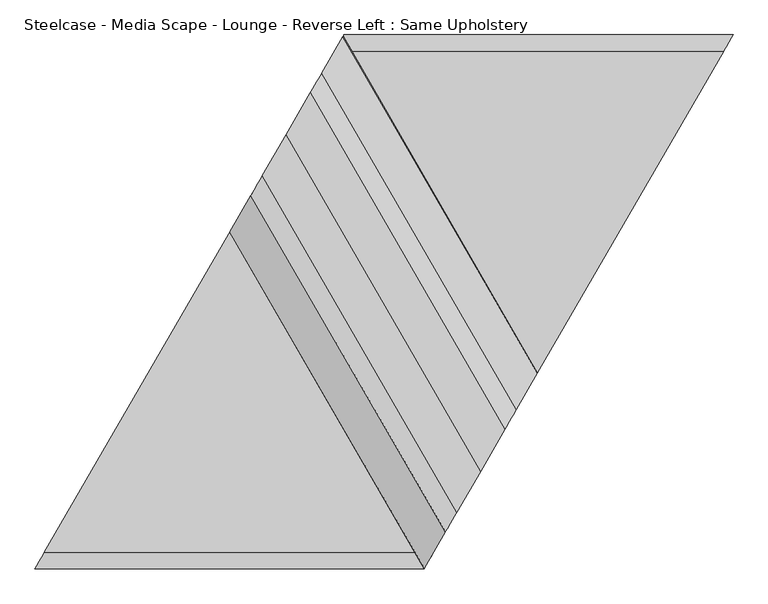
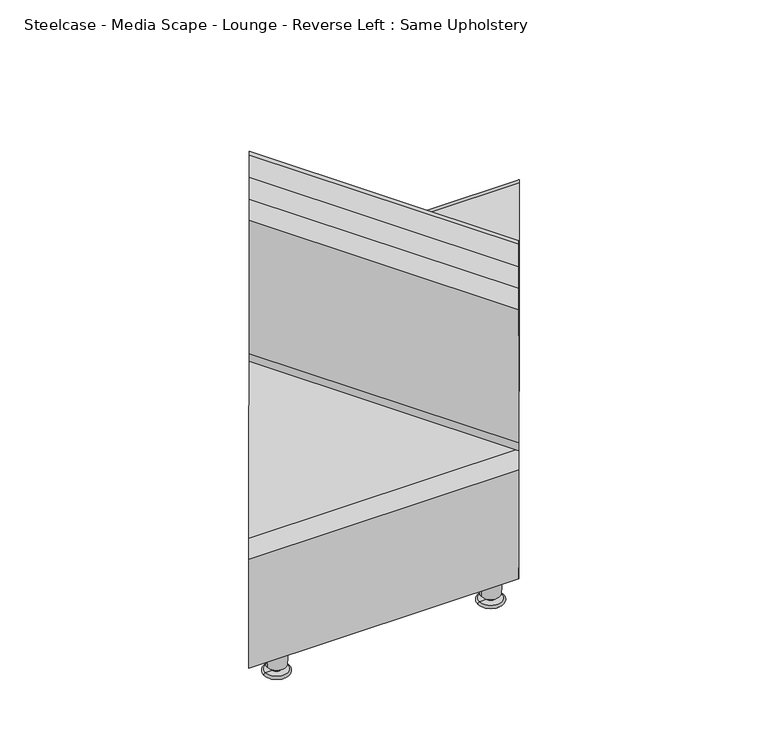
"""IFC4 building model written with IfcOpenShell, lengths in millimetres: furniture geometry, Steelcase - Media Scape - Lounge - Reverse Left : Same Upholstery."""

from ifc_helpers import new_model, si_unit, point, frame, origin, place, context, project, spatial, polyline, circle_curve, ellipse_curve, trimmed, source, transform, mapped, element, save
from ifc_brep_helpers import plane_surface, cylinder_surface, revolved_surface, advanced_brep


def steelcase_media_scape_lounge_reverse_left_same_upholstery_83d11a1b(model_context):
    return source(origin(), model_context, "Body", "AdvancedBrep", [
        advanced_brep(
        [(733.2985607, 218.0147503, 735.33), (429.994771, 743.3523242, 735.33), (392.1305336, 677.8946237, 735.33), (695.4343233, 152.5570499, 735.33), (355.0476193, 613.7876338, 735.33), (658.351409, 88.4500599, 735.33), (337.0848346, 582.734517, 710.0547892), (640.3886243, 57.3969432, 710.0547892), (304.4075131, 526.243684, 438.6065476), (607.7113028, 0.9061101, 438.6065476), (319.5651722, 552.447447, 406.3510633), (622.8689619, 27.1098731, 406.3510633), (392.5844661, 678.6793583, 406.3510633), (695.8882558, 153.3417845, 406.3510633), (465.4772182, 804.6925109, 406.3510633), (768.7810079, 279.3549371, 406.3510633), (480.6348772, 830.896274, 438.6065476), (783.9386669, 305.5587001, 438.6065476), (447.9575558, 774.4054409, 710.0547892), (751.2613455, 249.067867, 710.0547892)],
        [
            (0, 1),
            (1, 2),
            (2, 3),
            (3, 0),
            (2, 4),
            (4, 5),
            (5, 3),
            (4, 6, ellipse_curve(frame((355.0476193, 613.7876338, 703.58), z_axis=(0.8656115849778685, -0.5007160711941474, 0.0), x_axis=(-0.5007160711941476, -0.8656115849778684, 0.0)), 36.6442572, 31.75)),
            (6, 7),
            (7, 5, ellipse_curve(frame((658.351409, 88.4500599, 703.58), z_axis=(-0.8656115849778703, 0.5007160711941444, 0.0), x_axis=(-0.5007160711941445, -0.86561158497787, 0.0)), 36.6442572, 31.75)),
            (6, 8),
            (8, 9),
            (9, 7),
            (8, 10, ellipse_curve(frame((319.5651722, 552.447447, 433.1428821), z_axis=(0.8656115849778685, -0.5007160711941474, 0.0), x_axis=(-0.5007160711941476, -0.8656115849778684, 0.0)), 30.9217732, 26.7918188)),
            (10, 11),
            (11, 9, ellipse_curve(frame((622.8689619, 27.1098731, 433.1428821), z_axis=(-0.8656115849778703, 0.5007160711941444, 0.0), x_axis=(-0.5007160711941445, -0.86561158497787, 0.0)), 30.9217732, 26.7918188)),
            (10, 12),
            (12, 13),
            (13, 11),
            (12, 14),
            (14, 15),
            (15, 13),
            (14, 16, ellipse_curve(frame((465.4772182, 804.6925109, 433.1428821), z_axis=(0.8656115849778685, -0.5007160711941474, 0.0), x_axis=(-0.5007160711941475, -0.8656115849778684, 0.0)), 30.9217732, 26.7918188)),
            (16, 17),
            (17, 15, ellipse_curve(frame((768.7810079, 279.3549371, 433.1428821), z_axis=(-0.8656115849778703, 0.5007160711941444, 0.0), x_axis=(-0.5007160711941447, -0.86561158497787, 0.0)), 30.9217732, 26.7918188)),
            (16, 18),
            (18, 19),
            (19, 17),
            (0, 19, ellipse_curve(frame((733.2985607, 218.0147503, 703.58), z_axis=(-0.8656115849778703, 0.5007160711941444, 0.0), x_axis=(-0.5007160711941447, -0.86561158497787, 0.0)), 36.6442572, 31.75)),
            (18, 1, ellipse_curve(frame((429.994771, 743.3523242, 703.58), z_axis=(0.8656115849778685, -0.5007160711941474, 0.0), x_axis=(-0.5007160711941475, -0.8656115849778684, 0.0)), 36.6442572, 31.75)),
        ],
        [
            plane_surface(frame((796.5544513, 108.452334, 735.33), z_axis=(0.0, 0.0, 1.0), x_axis=(-0.49999999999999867, 0.8660254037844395, 0.0))),
            plane_surface(frame((739.8122575, 75.6922131, 735.33), z_axis=(0.0, 0.0, 1.0), x_axis=(-0.49999999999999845, 0.8660254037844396, 0.0))),
            cylinder_surface(frame((291.2090631, 724.3592567, 703.58), z_axis=(0.49999999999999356, -0.8660254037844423, 0.0), x_axis=(-0.8660254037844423, -0.49999999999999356, 0.0)), 31.75),
            plane_surface(frame((657.3224483, 28.0666996, 710.0547892), z_axis=(-0.8478262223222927, -0.4894926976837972, 0.2039303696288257), x_axis=(-0.49999999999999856, 0.8660254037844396, 0.0))),
            cylinder_surface(frame((238.0361477, 693.6598597, 433.1428821), z_axis=(0.49999999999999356, -0.8660254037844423, 0.0), x_axis=(-0.8660254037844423, -0.49999999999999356, 0.0)), 26.7918188),
            plane_surface(frame((631.0680155, 12.9086957, 406.3510633), z_axis=(0.0, 0.0, -1.0000000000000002), x_axis=(-0.4999999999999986, 0.8660254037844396, 0.0))),
            plane_surface(frame((740.4925069, 76.0849553, 406.3510633), z_axis=(0.0, 0.0, -1.0), x_axis=(-0.49999999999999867, 0.8660254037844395, 0.0))),
            cylinder_surface(frame((456.6954989, 819.902895, 433.1428821), z_axis=(0.49999999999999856, -0.8660254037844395, 0.0), x_axis=(0.8660254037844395, 0.49999999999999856, 0.0)), 26.7918188),
            plane_surface(frame((872.4421732, 152.2661306, 438.6065476), z_axis=(0.8478262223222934, 0.489492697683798, 0.20393036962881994), x_axis=(-0.4999999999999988, 0.8660254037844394, 0.0))),
            cylinder_surface(frame((403.5225835, 789.203498, 703.58), z_axis=(0.49999999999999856, -0.8660254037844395, 0.0), x_axis=(0.8660254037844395, 0.49999999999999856, 0.0)), 31.75),
            plane_surface(frame((1244.6, 1101.9257624, 750.6521515), z_axis=(0.8656115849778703, -0.5007160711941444, 0.0), x_axis=(0.0, 0.0, -1.0))),
            plane_surface(frame((-113.1046529, -195.5293698, 750.6521515), z_axis=(-0.8656115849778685, 0.5007160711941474, 0.0), x_axis=(0.0, 0.0, -1.0))),
        ],
        [
            (0, [[1, 2, 3, 4]]),
            (1, [[-3, 5, 6, 7]]),
            (2, [[-6, 8, 9, 10]]),
            (3, [[-9, 11, 12, 13]]),
            (4, [[-12, 14, 15, 16]]),
            (5, [[-15, 17, 18, 19]]),
            (6, [[-18, 20, 21, 22]]),
            (7, [[-21, 23, 24, 25]]),
            (8, [[-24, 26, 27, 28]]),
            (9, [[-1, 29, -27, 30]]),
            (10, [[-4, -7, -10, -13, -16, -19, -22, -25, -28, -29]]),
            (11, [[-2, -30, -26, -23, -20, -17, -14, -11, -8, -5]]),
        ],
    ),
        advanced_brep(
        [(1059.8466558, 782.5339068, 74.676), (452.6594956, 782.5339068, 74.676), (482.1409984, 833.4999769, 374.7917281), (1089.3281586, 833.4999769, 374.7917281), (467.6556677, 808.4584998, 404.4443065), (1074.842828, 808.4584998, 404.4443065), (14.7196556, 25.4465658, 404.4443065), (621.9068159, 25.4465658, 404.4443065), (0.234325, 0.4050887, 374.7917281), (607.4214852, 0.4050887, 374.7917281), (29.7158278, 51.3711588, 74.676), (636.9029881, 51.3711588, 74.676), (243.0239183, 420.1269566, 74.676), (850.2110786, 420.1269566, 74.676)],
        [
            (0, 1),
            (1, 2),
            (2, 3),
            (3, 0),
            (2, 4, ellipse_curve(frame((467.6556677, 808.4584998, 379.0443065), z_axis=(0.8656115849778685, -0.5007160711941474, 0.0), x_axis=(0.5007160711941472, 0.8656115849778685, 0.0)), 29.343415, 25.4)),
            (4, 5),
            (5, 3, ellipse_curve(frame((1074.842828, 808.4584998, 379.0443065), z_axis=(-0.8656115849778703, 0.5007160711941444, 0.0), x_axis=(0.500716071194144, 0.8656115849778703, 0.0)), 29.343415, 25.4)),
            (4, 6),
            (6, 7),
            (7, 5),
            (6, 8, ellipse_curve(frame((14.7196556, 25.4465658, 379.0443065), z_axis=(0.8656115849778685, -0.5007160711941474, 0.0), x_axis=(0.5007160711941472, 0.8656115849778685, 0.0)), 29.343415, 25.4)),
            (8, 9),
            (9, 7, ellipse_curve(frame((621.9068159, 25.4465658, 379.0443065), z_axis=(-0.8656115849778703, 0.5007160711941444, 0.0), x_axis=(0.500716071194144, 0.8656115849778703, 0.0)), 29.343415, 25.4)),
            (8, 10),
            (10, 11),
            (11, 9),
            (10, 12),
            (12, 13),
            (13, 11),
            (0, 13),
            (12, 1),
        ],
        [
            plane_surface(frame((1094.6230669, 782.5339068, 74.676), z_axis=(0.0, 0.9858849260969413, -0.16742434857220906), x_axis=(-1.0, 0.0, 0.0))),
            cylinder_surface(frame((0.0, 808.4584998, 379.0443065), z_axis=(1.0, 0.0, 0.0), x_axis=(0.0, 1.0, 0.0)), 25.4),
            plane_surface(frame((1094.6230669, 808.4584998, 404.4443065), z_axis=(0.0, 0.0, 1.0), x_axis=(-1.0, 0.0, 0.0))),
            cylinder_surface(frame((0.0, 25.4465658, 379.0443065), z_axis=(1.0, 0.0, 0.0), x_axis=(0.0, -1.0, 0.0)), 25.4),
            plane_surface(frame((1094.6230669, 0.4050887, 374.7917281), z_axis=(0.0, -0.9858849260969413, -0.1674243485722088), x_axis=(-1.0, 0.0, 0.0))),
            plane_surface(frame((1094.6230669, 51.3711588, 74.676), z_axis=(0.0, 0.0, -1.0), x_axis=(-1.0, 0.0, 0.0))),
            plane_surface(frame((1094.6230669, 420.1269566, 74.676), z_axis=(0.0, 0.0, -1.0), x_axis=(-1.0, 0.0, 0.0))),
            plane_surface(frame((1244.6, 1101.9257624, 750.6521515), z_axis=(0.8656115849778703, -0.5007160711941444, 0.0), x_axis=(0.0, 0.0, -1.0))),
            plane_surface(frame((-113.1046529, -195.5293698, 750.6521515), z_axis=(-0.8656115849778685, 0.5007160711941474, 0.0), x_axis=(0.0, 0.0, -1.0))),
        ],
        [
            (0, [[1, 2, 3, 4]]),
            (1, [[-3, 5, 6, 7]]),
            (2, [[-6, 8, 9, 10]]),
            (3, [[-9, 11, 12, 13]]),
            (4, [[-12, 14, 15, 16]]),
            (5, [[-15, 17, 18, 19]]),
            (6, [[-1, 20, -18, 21]]),
            (7, [[-4, -7, -10, -13, -16, -19, -20]]),
            (8, [[-2, -21, -17, -14, -11, -8, -5]]),
        ],
    ),
        advanced_brep(
        [(964.0013944, 727.1583042, 74.1561731), (987.7883146, 727.1583042, 74.1561731), (940.2144743, 727.1583042, 74.1561731), (937.9477522, 727.1583042, 0.0), (990.0550367, 727.1583042, 0.0), (964.0013944, 727.1583042, 0.0), (937.9477522, 727.1583042, 6.3788302), (990.0550367, 727.1583042, 6.3788302), (954.4763944, 727.1583042, 6.3788302), (973.5263944, 727.1583042, 6.3788302), (954.4763944, 727.1583042, 17.057519), (973.5263944, 727.1583042, 17.057519), (943.0462782, 727.1583042, 17.057519), (984.9565107, 727.1583042, 17.057519)],
        [
            (0, 1),
            (1, 2, circle_curve(frame((964.0013944, 727.1583042, 74.1561731), z_axis=(0.0, 0.0, 1.0), x_axis=(1.0, 0.0, 0.0)), 23.7869202)),
            (2, 0),
            (2, 1, circle_curve(frame((964.0013944, 727.1583042, 74.1561731), z_axis=(0.0, 0.0, 1.0), x_axis=(1.0, 0.0, 0.0)), 23.7869202)),
            (3, 4, circle_curve(frame((964.0013944, 727.1583042, 0.0), z_axis=(0.0, 0.0, -1.0), x_axis=(1.0, 0.0, 0.0)), 26.0536423)),
            (4, 5),
            (5, 3),
            (4, 3, circle_curve(frame((964.0013944, 727.1583042, 0.0), z_axis=(0.0, 0.0, -1.0), x_axis=(1.0, 0.0, 0.0)), 26.0536423)),
            (3, 6, circle_curve(frame((937.9477522, 727.1583042, 3.1894151), z_axis=(0.0, 1.0, 0.0), x_axis=(-1.0, 0.0, 0.0)), 3.1894151)),
            (6, 7, circle_curve(frame((964.0013944, 727.1583042, 6.3788302), z_axis=(0.0, 0.0, -1.0), x_axis=(1.0, 0.0, 0.0)), 26.0536423)),
            (7, 4, circle_curve(frame((990.0550367, 727.1583042, 3.1894151), z_axis=(0.0, 1.0, 0.0), x_axis=(1.0, 0.0, 0.0)), 3.1894151)),
            (7, 6, circle_curve(frame((964.0013944, 727.1583042, 6.3788302), z_axis=(0.0, 0.0, -1.0), x_axis=(1.0, 0.0, 0.0)), 26.0536423)),
            (6, 8),
            (8, 9, circle_curve(frame((964.0013944, 727.1583042, 6.3788302), z_axis=(0.0, 0.0, -1.0), x_axis=(1.0, 0.0, 0.0)), 9.525)),
            (9, 7),
            (9, 8, circle_curve(frame((964.0013944, 727.1583042, 6.3788302), z_axis=(0.0, 0.0, -1.0), x_axis=(1.0, 0.0, 0.0)), 9.525)),
            (8, 10),
            (10, 11, circle_curve(frame((964.0013944, 727.1583042, 17.057519), z_axis=(0.0, 0.0, -1.0), x_axis=(1.0, 0.0, 0.0)), 9.525)),
            (11, 9),
            (11, 10, circle_curve(frame((964.0013944, 727.1583042, 17.057519), z_axis=(0.0, 0.0, -1.0), x_axis=(1.0, 0.0, 0.0)), 9.525)),
            (10, 12),
            (12, 13, circle_curve(frame((964.0013944, 727.1583042, 17.057519), z_axis=(0.0, 0.0, -1.0), x_axis=(1.0, 0.0, 0.0)), 20.9551163)),
            (13, 11),
            (13, 12, circle_curve(frame((964.0013944, 727.1583042, 17.057519), z_axis=(0.0, 0.0, -1.0), x_axis=(1.0, 0.0, 0.0)), 20.9551163)),
            (1, 13),
            (12, 2),
        ],
        [
            plane_surface(frame((964.0013944, 727.1583042, 74.1561731), z_axis=(0.0, 0.0, 1.0), x_axis=(1.0, 0.0, 0.0))),
            plane_surface(frame((964.0013944, 727.1583042, 0.0), z_axis=(0.0, 0.0, -1.0), x_axis=(1.0, 0.0, 0.0))),
            revolved_surface(trimmed(ellipse_curve(frame((990.0550367, 727.1583042, 3.1894151), z_axis=(0.0, -1.0, 0.0), x_axis=(1.0, 0.0, 0.0)), 3.1894151, 3.1894151), [point((990.0550367, 727.1583042, 0.0))], [point((990.0550367, 727.1583042, 6.3788302))], True, "CARTESIAN"), (964.0013944, 727.1583042, 61.4561731), (0.0, 0.0, 1.0)),
            plane_surface(frame((964.0013944, 727.1583042, 6.3788302), z_axis=(0.0, 0.0, 1.0), x_axis=(1.0, 0.0, 0.0))),
            cylinder_surface(frame((964.0013944, 727.1583042, 61.4561731), z_axis=(0.0, 0.0, 1.0), x_axis=(1.0, 0.0, 0.0)), 9.525),
            plane_surface(frame((964.0013944, 727.1583042, 17.057519), z_axis=(0.0, 0.0, -1.0), x_axis=(1.0, 0.0, 0.0))),
            revolved_surface(polyline([(984.9565107, 727.1583042, 17.057519), (987.7883146, 727.1583042, 74.1561731)]), (964.0013944, 727.1583042, 61.4561731), (0.0, 0.0, 1.0)),
        ],
        [
            (0, [[1, 2, 3]]),
            (0, [[-1, -3, 4]]),
            (1, [[5, 6, 7]]),
            (1, [[-6, 8, -7]]),
            (2, [[-5, 9, 10, 11]]),
            (2, [[-8, -11, 12, -9]]),
            (3, [[-10, 13, 14, 15]]),
            (3, [[-12, -15, 16, -13]]),
            (4, [[-14, 17, 18, 19]]),
            (4, [[-16, -19, 20, -17]]),
            (5, [[-18, 21, 22, 23]]),
            (5, [[-20, -23, 24, -21]]),
            (6, [[-2, 25, -22, 26]]),
            (6, [[-4, -26, -24, -25]]),
        ],
    ),
        advanced_brep(
        [(482.2011518, 727.1583042, 74.1561731), (505.988072, 727.1583042, 74.1561731), (458.4142317, 727.1583042, 74.1561731), (456.1475095, 727.1583042, 0.0), (508.2547941, 727.1583042, 0.0), (482.2011518, 727.1583042, 0.0), (456.1475095, 727.1583042, 6.3788302), (508.2547941, 727.1583042, 6.3788302), (472.6761518, 727.1583042, 6.3788302), (491.7261518, 727.1583042, 6.3788302), (472.6761518, 727.1583042, 17.057519), (491.7261518, 727.1583042, 17.057519), (461.2460355, 727.1583042, 17.057519), (503.1562681, 727.1583042, 17.057519)],
        [
            (0, 1),
            (1, 2, circle_curve(frame((482.2011518, 727.1583042, 74.1561731), z_axis=(0.0, 0.0, 1.0), x_axis=(1.0, 0.0, 0.0)), 23.7869202)),
            (2, 0),
            (2, 1, circle_curve(frame((482.2011518, 727.1583042, 74.1561731), z_axis=(0.0, 0.0, 1.0), x_axis=(1.0, 0.0, 0.0)), 23.7869202)),
            (3, 4, circle_curve(frame((482.2011518, 727.1583042, 0.0), z_axis=(0.0, 0.0, -1.0), x_axis=(1.0, 0.0, 0.0)), 26.0536423)),
            (4, 5),
            (5, 3),
            (4, 3, circle_curve(frame((482.2011518, 727.1583042, 0.0), z_axis=(0.0, 0.0, -1.0), x_axis=(1.0, 0.0, 0.0)), 26.0536423)),
            (3, 6, circle_curve(frame((456.1475095, 727.1583042, 3.1894151), z_axis=(0.0, 1.0, 0.0), x_axis=(-1.0, 0.0, 0.0)), 3.1894151)),
            (6, 7, circle_curve(frame((482.2011518, 727.1583042, 6.3788302), z_axis=(0.0, 0.0, -1.0), x_axis=(1.0, 0.0, 0.0)), 26.0536423)),
            (7, 4, circle_curve(frame((508.2547941, 727.1583042, 3.1894151), z_axis=(0.0, 1.0, 0.0), x_axis=(1.0, 0.0, 0.0)), 3.1894151)),
            (7, 6, circle_curve(frame((482.2011518, 727.1583042, 6.3788302), z_axis=(0.0, 0.0, -1.0), x_axis=(1.0, 0.0, 0.0)), 26.0536423)),
            (6, 8),
            (8, 9, circle_curve(frame((482.2011518, 727.1583042, 6.3788302), z_axis=(0.0, 0.0, -1.0), x_axis=(1.0, 0.0, 0.0)), 9.525)),
            (9, 7),
            (9, 8, circle_curve(frame((482.2011518, 727.1583042, 6.3788302), z_axis=(0.0, 0.0, -1.0), x_axis=(1.0, 0.0, 0.0)), 9.525)),
            (8, 10),
            (10, 11, circle_curve(frame((482.2011518, 727.1583042, 17.057519), z_axis=(0.0, 0.0, -1.0), x_axis=(1.0, 0.0, 0.0)), 9.525)),
            (11, 9),
            (11, 10, circle_curve(frame((482.2011518, 727.1583042, 17.057519), z_axis=(0.0, 0.0, -1.0), x_axis=(1.0, 0.0, 0.0)), 9.525)),
            (10, 12),
            (12, 13, circle_curve(frame((482.2011518, 727.1583042, 17.057519), z_axis=(0.0, 0.0, -1.0), x_axis=(1.0, 0.0, 0.0)), 20.9551163)),
            (13, 11),
            (13, 12, circle_curve(frame((482.2011518, 727.1583042, 17.057519), z_axis=(0.0, 0.0, -1.0), x_axis=(1.0, 0.0, 0.0)), 20.9551163)),
            (1, 13),
            (12, 2),
        ],
        [
            plane_surface(frame((482.2011518, 727.1583042, 74.1561731), z_axis=(0.0, 0.0, 1.0), x_axis=(1.0, 0.0, 0.0))),
            plane_surface(frame((482.2011518, 727.1583042, 0.0), z_axis=(0.0, 0.0, -1.0), x_axis=(1.0, 0.0, 0.0))),
            revolved_surface(trimmed(ellipse_curve(frame((508.2547941, 727.1583042, 3.1894151), z_axis=(0.0, -1.0, 0.0), x_axis=(1.0, 0.0, 0.0)), 3.1894151, 3.1894151), [point((508.2547941, 727.1583042, 0.0))], [point((508.2547941, 727.1583042, 6.3788302))], True, "CARTESIAN"), (482.2011518, 727.1583042, 61.4561731), (0.0, 0.0, 1.0)),
            plane_surface(frame((482.2011518, 727.1583042, 6.3788302), z_axis=(0.0, 0.0, 1.0), x_axis=(1.0, 0.0, 0.0))),
            cylinder_surface(frame((482.2011518, 727.1583042, 61.4561731), z_axis=(0.0, 0.0, 1.0), x_axis=(1.0, 0.0, 0.0)), 9.525),
            plane_surface(frame((482.2011518, 727.1583042, 17.057519), z_axis=(0.0, 0.0, -1.0), x_axis=(1.0, 0.0, 0.0))),
            revolved_surface(polyline([(503.1562681, 727.1583042, 17.057519), (505.988072, 727.1583042, 74.1561731)]), (482.2011518, 727.1583042, 61.4561731), (0.0, 0.0, 1.0)),
        ],
        [
            (0, [[1, 2, 3]]),
            (0, [[-1, -3, 4]]),
            (1, [[5, 6, 7]]),
            (1, [[-6, 8, -7]]),
            (2, [[-5, 9, 10, 11]]),
            (2, [[-8, -11, 12, -9]]),
            (3, [[-10, 13, 14, 15]]),
            (3, [[-12, -15, 16, -13]]),
            (4, [[-14, 17, 18, 19]]),
            (4, [[-16, -19, 20, -17]]),
            (5, [[-18, 21, 22, 23]]),
            (5, [[-20, -23, 24, -21]]),
            (6, [[-2, 25, -22, 26]]),
            (6, [[-4, -26, -24, -25]]),
        ],
    ),
        advanced_brep(
        [(605.7651212, 106.9669449, 74.1561731), (629.5520414, 106.9669449, 74.1561731), (581.9782011, 106.9669449, 74.1561731), (579.711479, 106.9669449, 0.0), (631.8187635, 106.9669449, 0.0), (605.7651212, 106.9669449, 0.0), (579.711479, 106.9669449, 6.3788302), (631.8187635, 106.9669449, 6.3788302), (596.2401212, 106.9669449, 6.3788302), (615.2901212, 106.9669449, 6.3788302), (596.2401212, 106.9669449, 17.057519), (615.2901212, 106.9669449, 17.057519), (584.810005, 106.9669449, 17.057519), (626.7202375, 106.9669449, 17.057519)],
        [
            (0, 1),
            (1, 2, circle_curve(frame((605.7651212, 106.9669449, 74.1561731), z_axis=(0.0, 0.0, 1.0), x_axis=(1.0, 0.0, 0.0)), 23.7869202)),
            (2, 0),
            (2, 1, circle_curve(frame((605.7651212, 106.9669449, 74.1561731), z_axis=(0.0, 0.0, 1.0), x_axis=(1.0, 0.0, 0.0)), 23.7869202)),
            (3, 4, circle_curve(frame((605.7651212, 106.9669449, 0.0), z_axis=(0.0, 0.0, -1.0), x_axis=(1.0, 0.0, 0.0)), 26.0536423)),
            (4, 5),
            (5, 3),
            (4, 3, circle_curve(frame((605.7651212, 106.9669449, 0.0), z_axis=(0.0, 0.0, -1.0), x_axis=(1.0, 0.0, 0.0)), 26.0536423)),
            (3, 6, circle_curve(frame((579.711479, 106.9669449, 3.1894151), z_axis=(0.0, 1.0, 0.0), x_axis=(-1.0, 0.0, 0.0)), 3.1894151)),
            (6, 7, circle_curve(frame((605.7651212, 106.9669449, 6.3788302), z_axis=(0.0, 0.0, -1.0), x_axis=(1.0, 0.0, 0.0)), 26.0536423)),
            (7, 4, circle_curve(frame((631.8187635, 106.9669449, 3.1894151), z_axis=(0.0, 1.0, 0.0), x_axis=(1.0, 0.0, 0.0)), 3.1894151)),
            (7, 6, circle_curve(frame((605.7651212, 106.9669449, 6.3788302), z_axis=(0.0, 0.0, -1.0), x_axis=(1.0, 0.0, 0.0)), 26.0536423)),
            (6, 8),
            (8, 9, circle_curve(frame((605.7651212, 106.9669449, 6.3788302), z_axis=(0.0, 0.0, -1.0), x_axis=(1.0, 0.0, 0.0)), 9.525)),
            (9, 7),
            (9, 8, circle_curve(frame((605.7651212, 106.9669449, 6.3788302), z_axis=(0.0, 0.0, -1.0), x_axis=(1.0, 0.0, 0.0)), 9.525)),
            (8, 10),
            (10, 11, circle_curve(frame((605.7651212, 106.9669449, 17.057519), z_axis=(0.0, 0.0, -1.0), x_axis=(1.0, 0.0, 0.0)), 9.525)),
            (11, 9),
            (11, 10, circle_curve(frame((605.7651212, 106.9669449, 17.057519), z_axis=(0.0, 0.0, -1.0), x_axis=(1.0, 0.0, 0.0)), 9.525)),
            (10, 12),
            (12, 13, circle_curve(frame((605.7651212, 106.9669449, 17.057519), z_axis=(0.0, 0.0, -1.0), x_axis=(1.0, 0.0, 0.0)), 20.9551163)),
            (13, 11),
            (13, 12, circle_curve(frame((605.7651212, 106.9669449, 17.057519), z_axis=(0.0, 0.0, -1.0), x_axis=(1.0, 0.0, 0.0)), 20.9551163)),
            (1, 13),
            (12, 2),
        ],
        [
            plane_surface(frame((605.7651212, 106.9669449, 74.1561731), z_axis=(0.0, 0.0, 1.0), x_axis=(1.0, 0.0, 0.0))),
            plane_surface(frame((605.7651212, 106.9669449, 0.0), z_axis=(0.0, 0.0, -1.0), x_axis=(1.0, 0.0, 0.0))),
            revolved_surface(trimmed(ellipse_curve(frame((631.8187635, 106.9669449, 3.1894151), z_axis=(0.0, -1.0, 0.0), x_axis=(1.0, 0.0, 0.0)), 3.1894151, 3.1894151), [point((631.8187635, 106.9669449, 0.0))], [point((631.8187635, 106.9669449, 6.3788302))], True, "CARTESIAN"), (605.7651212, 106.9669449, 61.4561731), (0.0, 0.0, 1.0)),
            plane_surface(frame((605.7651212, 106.9669449, 6.3788302), z_axis=(0.0, 0.0, 1.0), x_axis=(1.0, 0.0, 0.0))),
            cylinder_surface(frame((605.7651212, 106.9669449, 61.4561731), z_axis=(0.0, 0.0, 1.0), x_axis=(1.0, 0.0, 0.0)), 9.525),
            plane_surface(frame((605.7651212, 106.9669449, 17.057519), z_axis=(0.0, 0.0, -1.0), x_axis=(1.0, 0.0, 0.0))),
            revolved_surface(polyline([(626.7202375, 106.9669449, 17.057519), (629.5520414, 106.9669449, 74.1561731)]), (605.7651212, 106.9669449, 61.4561731), (0.0, 0.0, 1.0)),
        ],
        [
            (0, [[1, 2, 3]]),
            (0, [[-1, -3, 4]]),
            (1, [[5, 6, 7]]),
            (1, [[-6, 8, -7]]),
            (2, [[-5, 9, 10, 11]]),
            (2, [[-8, -11, 12, -9]]),
            (3, [[-10, 13, 14, 15]]),
            (3, [[-12, -15, 16, -13]]),
            (4, [[-14, 17, 18, 19]]),
            (4, [[-16, -19, 20, -17]]),
            (5, [[-18, 21, 22, 23]]),
            (5, [[-20, -23, 24, -21]]),
            (6, [[-2, 25, -22, 26]]),
            (6, [[-4, -26, -24, -25]]),
        ],
    ),
        advanced_brep(
        [(123.9648786, 106.9669449, 74.1561731), (147.7517988, 106.9669449, 74.1561731), (100.1779585, 106.9669449, 74.1561731), (97.9112364, 106.9669449, 0.0), (150.0185209, 106.9669449, 0.0), (123.9648786, 106.9669449, 0.0), (97.9112364, 106.9669449, 6.3788302), (150.0185209, 106.9669449, 6.3788302), (114.4398786, 106.9669449, 6.3788302), (133.4898786, 106.9669449, 6.3788302), (114.4398786, 106.9669449, 17.057519), (133.4898786, 106.9669449, 17.057519), (103.0097624, 106.9669449, 17.057519), (144.9199949, 106.9669449, 17.057519)],
        [
            (0, 1),
            (1, 2, circle_curve(frame((123.9648786, 106.9669449, 74.1561731), z_axis=(0.0, 0.0, 1.0), x_axis=(1.0, 0.0, 0.0)), 23.7869202)),
            (2, 0),
            (2, 1, circle_curve(frame((123.9648786, 106.9669449, 74.1561731), z_axis=(0.0, 0.0, 1.0), x_axis=(1.0, 0.0, 0.0)), 23.7869202)),
            (3, 4, circle_curve(frame((123.9648786, 106.9669449, 0.0), z_axis=(0.0, 0.0, -1.0), x_axis=(1.0, 0.0, 0.0)), 26.0536423)),
            (4, 5),
            (5, 3),
            (4, 3, circle_curve(frame((123.9648786, 106.9669449, 0.0), z_axis=(0.0, 0.0, -1.0), x_axis=(1.0, 0.0, 0.0)), 26.0536423)),
            (3, 6, circle_curve(frame((97.9112364, 106.9669449, 3.1894151), z_axis=(0.0, 1.0, 0.0), x_axis=(-1.0, 0.0, 0.0)), 3.1894151)),
            (6, 7, circle_curve(frame((123.9648786, 106.9669449, 6.3788302), z_axis=(0.0, 0.0, -1.0), x_axis=(1.0, 0.0, 0.0)), 26.0536423)),
            (7, 4, circle_curve(frame((150.0185209, 106.9669449, 3.1894151), z_axis=(0.0, 1.0, 0.0), x_axis=(1.0, 0.0, 0.0)), 3.1894151)),
            (7, 6, circle_curve(frame((123.9648786, 106.9669449, 6.3788302), z_axis=(0.0, 0.0, -1.0), x_axis=(1.0, 0.0, 0.0)), 26.0536423)),
            (6, 8),
            (8, 9, circle_curve(frame((123.9648786, 106.9669449, 6.3788302), z_axis=(0.0, 0.0, -1.0), x_axis=(1.0, 0.0, 0.0)), 9.525)),
            (9, 7),
            (9, 8, circle_curve(frame((123.9648786, 106.9669449, 6.3788302), z_axis=(0.0, 0.0, -1.0), x_axis=(1.0, 0.0, 0.0)), 9.525)),
            (8, 10),
            (10, 11, circle_curve(frame((123.9648786, 106.9669449, 17.057519), z_axis=(0.0, 0.0, -1.0), x_axis=(1.0, 0.0, 0.0)), 9.525)),
            (11, 9),
            (11, 10, circle_curve(frame((123.9648786, 106.9669449, 17.057519), z_axis=(0.0, 0.0, -1.0), x_axis=(1.0, 0.0, 0.0)), 9.525)),
            (10, 12),
            (12, 13, circle_curve(frame((123.9648786, 106.9669449, 17.057519), z_axis=(0.0, 0.0, -1.0), x_axis=(1.0, 0.0, 0.0)), 20.9551163)),
            (13, 11),
            (13, 12, circle_curve(frame((123.9648786, 106.9669449, 17.057519), z_axis=(0.0, 0.0, -1.0), x_axis=(1.0, 0.0, 0.0)), 20.9551163)),
            (1, 13),
            (12, 2),
        ],
        [
            plane_surface(frame((123.9648786, 106.9669449, 74.1561731), z_axis=(0.0, 0.0, 1.0), x_axis=(1.0, 0.0, 0.0))),
            plane_surface(frame((123.9648786, 106.9669449, 0.0), z_axis=(0.0, 0.0, -1.0), x_axis=(1.0, 0.0, 0.0))),
            revolved_surface(trimmed(ellipse_curve(frame((150.0185209, 106.9669449, 3.1894151), z_axis=(0.0, -1.0, 0.0), x_axis=(1.0, 0.0, 0.0)), 3.1894151, 3.1894151), [point((150.0185209, 106.9669449, 0.0))], [point((150.0185209, 106.9669449, 6.3788302))], True, "CARTESIAN"), (123.9648786, 106.9669449, 61.4561731), (0.0, 0.0, 1.0)),
            plane_surface(frame((123.9648786, 106.9669449, 6.3788302), z_axis=(0.0, 0.0, 1.0), x_axis=(1.0, 0.0, 0.0))),
            cylinder_surface(frame((123.9648786, 106.9669449, 61.4561731), z_axis=(0.0, 0.0, 1.0), x_axis=(1.0, 0.0, 0.0)), 9.525),
            plane_surface(frame((123.9648786, 106.9669449, 17.057519), z_axis=(0.0, 0.0, -1.0), x_axis=(1.0, 0.0, 0.0))),
            revolved_surface(polyline([(144.9199949, 106.9669449, 17.057519), (147.7517988, 106.9669449, 74.1561731)]), (123.9648786, 106.9669449, 61.4561731), (0.0, 0.0, 1.0)),
        ],
        [
            (0, [[1, 2, 3]]),
            (0, [[-1, -3, 4]]),
            (1, [[5, 6, 7]]),
            (1, [[-6, 8, -7]]),
            (2, [[-5, 9, 10, 11]]),
            (2, [[-8, -11, 12, -9]]),
            (3, [[-10, 13, 14, 15]]),
            (3, [[-12, -15, 16, -13]]),
            (4, [[-14, 17, 18, 19]]),
            (4, [[-16, -19, 20, -17]]),
            (5, [[-18, 21, 22, 23]]),
            (5, [[-20, -23, 24, -21]]),
            (6, [[-2, 25, -22, 26]]),
            (6, [[-4, -26, -24, -25]]),
        ],
    ),
    ])


if __name__ == "__main__":
    model = new_model("IFC4")
    model_context = context("Model", 3, world=origin())
    ifc_project = project(units=[si_unit("LENGTHUNIT", "METRE", prefix="MILLI")], contexts=[model_context])
    site = spatial("IfcSite", under=ifc_project)
    building = spatial("IfcBuilding", under=site)
    placement = place(None, origin())
    steelcase_media_scape_lounge_reverse_left_same_upholstery_shape = steelcase_media_scape_lounge_reverse_left_same_upholstery_83d11a1b(model_context)
    element("IfcFurniture", 1, ObjectType="Steelcase - Media Scape - Lounge - Reverse Left : Same Upholstery", at=placement, inside=building, context=model_context, shape_type="MappedRepresentation", body=[
        mapped(steelcase_media_scape_lounge_reverse_left_same_upholstery_shape, transform((0.0, 0.0, 0.0), x_axis=(1.0, 0.0, 0.0), y_axis=(0.0, 1.0, 0.0), z_axis=(0.0, 0.0, 1.0))),
    ])
    save(model, "model.ifc")
